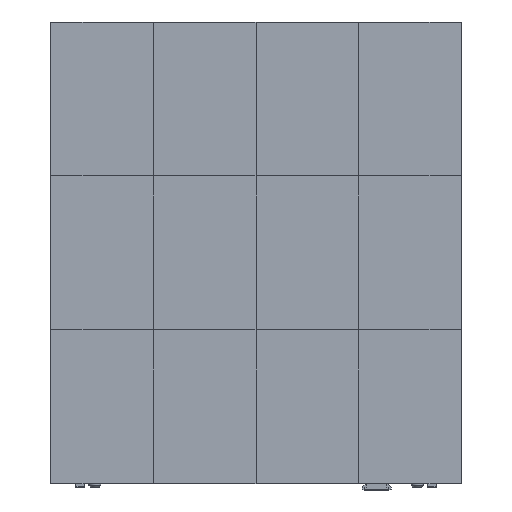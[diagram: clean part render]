
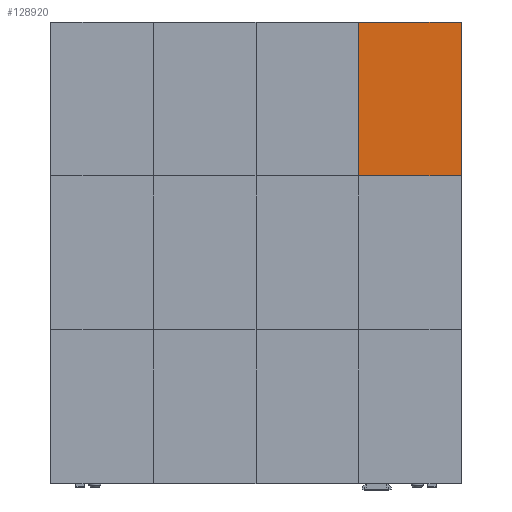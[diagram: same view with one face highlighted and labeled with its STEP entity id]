
A CAD part, top view. The second image highlights one B-rep face of the part: STEP entity #128920.
In plain terms, the highlighted planar face has unit normal (0, 0, 1).
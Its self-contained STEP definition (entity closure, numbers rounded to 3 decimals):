
#44190 = DIRECTION ( 'NONE',  ( 0., -1., 0. ) ) ;
#44830 = CARTESIAN_POINT ( 'NONE',  ( 178.56, 267.84, 2.5 ) ) ;
#55521 = LINE ( 'NONE', #124509, #112670 ) ;
#56005 = CARTESIAN_POINT ( 'NONE',  ( 119.04, 89.28, 2.5 ) ) ;
#74460 = ORIENTED_EDGE ( 'NONE', *, *, #273887, .T. ) ;
#77695 = CARTESIAN_POINT ( 'NONE',  ( 238.08, 89.28, 2.5 ) ) ;
#85677 = VECTOR ( 'NONE', #109515, 1000. ) ;
#88345 = VERTEX_POINT ( 'NONE', #171734 ) ;
#92314 = LINE ( 'NONE', #44830, #85677 ) ;
#106657 = PLANE ( 'NONE',  #262476 ) ;
#109515 = DIRECTION ( 'NONE',  ( -1., 0., 0. ) ) ;
#112670 = VECTOR ( 'NONE', #145992, 1000. ) ;
#115126 = VECTOR ( 'NONE', #44190, 1000. ) ;
#123083 = EDGE_CURVE ( 'NONE', #187176, #210477, #192242, .T. ) ;
#124509 = CARTESIAN_POINT ( 'NONE',  ( 238.08, 178.56, 2.5 ) ) ;
#128115 = DIRECTION ( 'NONE',  ( 1., 0., 0. ) ) ;
#128920 = ADVANCED_FACE ( 'NONE', ( #264322 ), #106657, .T. ) ;
#145992 = DIRECTION ( 'NONE',  ( 0., 1., 0. ) ) ;
#155711 = LINE ( 'NONE', #274320, #262737 ) ;
#167713 = DIRECTION ( 'NONE',  ( 1., 0., 0. ) ) ;
#171734 = CARTESIAN_POINT ( 'NONE',  ( 238.08, 267.84, 2.5 ) ) ;
#174209 = ORIENTED_EDGE ( 'NONE', *, *, #272852, .T. ) ;
#183945 = VERTEX_POINT ( 'NONE', #77695 ) ;
#187176 = VERTEX_POINT ( 'NONE', #261110 ) ;
#192242 = LINE ( 'NONE', #257508, #115126 ) ;
#202032 = ORIENTED_EDGE ( 'NONE', *, *, #123083, .T. ) ;
#210477 = VERTEX_POINT ( 'NONE', #56005 ) ;
#211489 = EDGE_LOOP ( 'NONE', ( #174209, #202032, #74460, #277482 ) ) ;
#236018 = EDGE_CURVE ( 'NONE', #183945, #88345, #55521, .T. ) ;
#256200 = DIRECTION ( 'NONE',  ( 0., 0., 1. ) ) ;
#257508 = CARTESIAN_POINT ( 'NONE',  ( 119.04, 178.56, 2.5 ) ) ;
#261110 = CARTESIAN_POINT ( 'NONE',  ( 119.04, 267.84, 2.5 ) ) ;
#262476 = AXIS2_PLACEMENT_3D ( 'NONE', #276807, #256200, #128115 ) ;
#262737 = VECTOR ( 'NONE', #167713, 1000. ) ;
#264322 = FACE_OUTER_BOUND ( 'NONE', #211489, .T. ) ;
#272852 = EDGE_CURVE ( 'NONE', #88345, #187176, #92314, .T. ) ;
#273887 = EDGE_CURVE ( 'NONE', #210477, #183945, #155711, .T. ) ;
#274320 = CARTESIAN_POINT ( 'NONE',  ( 178.56, 89.28, 2.5 ) ) ;
#276807 = CARTESIAN_POINT ( 'NONE',  ( 178.56, 178.56, 2.5 ) ) ;
#277482 = ORIENTED_EDGE ( 'NONE', *, *, #236018, .T. ) ;
